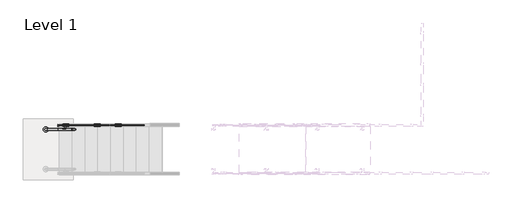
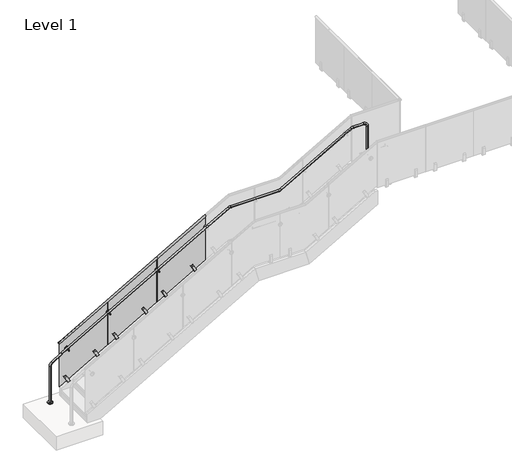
# One storey, part 3 of 17: 1 railing.
"""IFC4 building model written with IfcOpenShell, lengths in millimetres."""

from ifc_helpers import new_model, si_unit, point, frame, frame_2d, origin, origin_with_axes, place, context, project, spatial, polyline, circle_curve, ellipse_curve, trimmed, segment, composite_curve, outline, extrude, element, save
from ifc_brep_helpers import plane_surface, cylinder_surface, revolved_surface, advanced_brep

model = new_model("IFC4")

# Units and contexts
model_context = context("Model", 3, world=origin())
ifc_project = project(units=[si_unit("LENGTHUNIT", "METRE", prefix="MILLI")], contexts=[model_context])

# Site, building, storey
site = spatial("IfcSite", under=ifc_project)
building = spatial("IfcBuilding", under=site)
storey = spatial("IfcBuildingStorey", under=building, Name="Level 1", Elevation=0.0)

# Railing
placement = place(None, origin())
element("IfcRailing", 1, ObjectType="VIVA-VISIO-Glass-Steel Surface Mount-Stair_Lower", at=placement, inside=storey, context=model_context, shape_type="SolidModel", body=[
    extrude(outline(composite_curve([segment(trimmed(circle_curve(frame_2d((30754.4362561, -21174.9617549)), 50.8), [point((30754.4362561, -21225.7617549))], [point((30754.4362561, -21124.1617549))], False, "CARTESIAN"), True, "CONTINUOUS"), segment(trimmed(circle_curve(frame_2d((30754.4362561, -21174.9617549)), 50.8), [point((30754.4362561, -21124.1617549))], [point((30754.4362561, -21225.7617549))], False, "CARTESIAN"), True, "CONTINUOUS")], self_intersect=False)), frame((0.0, 0.0, 3048.0), z_axis=(0.0, 0.0, 1.0), x_axis=(1.0, 0.0, 0.0)), (0.0, 0.0, 1.0), 19.05),
    extrude(outline(composite_curve([segment(trimmed(circle_curve(frame_2d((24036.1362561, -21174.9617549)), 50.8), [point((24036.1362561, -21124.1617549))], [point((24036.1362561, -21225.7617549))], False, "CARTESIAN"), True, "CONTINUOUS"), segment(trimmed(circle_curve(frame_2d((24036.1362561, -21174.9617549)), 50.8), [point((24036.1362561, -21225.7617549))], [point((24036.1362561, -21124.1617549))], False, "CARTESIAN"), True, "CONTINUOUS")], self_intersect=False)), origin_with_axes(), (0.0, 0.0, 1.0), 19.05),
    advanced_brep(
    [(24036.1362561, -21194.0117549, 19.05), (24036.1362561, -21155.9117549, 19.05), (24036.1362561, -21194.0117549, 815.8777111), (24036.1362561, -21155.9117549, 815.8777111), (24072.8957549, -21155.9117549, 884.5634629), (24072.8957549, -21194.0117549, 884.5634629), (24278.7417076, -21194.0117549, 1021.794098), (24278.7417076, -21155.9117549, 1021.794098), (24283.5759394, -21155.9117549, 1024.7818176), (24283.5759394, -21194.0117549, 1024.7818176), (27379.3377028, -21194.0117549, 2793.7885396), (27379.3377028, -21155.9117549, 2793.7885396), (27813.1113335, -21194.0117549, 3041.6591857), (27813.1113335, -21155.9117549, 3041.6591857), (27854.0676029, -21155.9117549, 3052.5357143), (27854.0676029, -21194.0117549, 3052.5357143), (28866.9049093, -21194.0117549, 3052.5357143), (28866.9049093, -21155.9117549, 3052.5357143), (28926.7640722, -21155.9117549, 3068.4321792), (28926.7640722, -21194.0117549, 3068.4321792), (30403.9113335, -21194.0117549, 3912.5163285), (30403.9113335, -21155.9117549, 3912.5163285), (30444.8676029, -21155.9117549, 3923.3928571), (30444.8676029, -21194.0117549, 3923.3928571), (30671.8862561, -21194.0117549, 3923.3928571), (30671.8862561, -21155.9117549, 3923.3928571), (30754.4362561, -21155.9117549, 3840.8428571), (30754.4362561, -21194.0117549, 3840.8428571), (30754.4362561, -21194.0117549, 3067.05), (30754.4362561, -21155.9117549, 3067.05)],
    [
        (0, 1, circle_curve(frame((24036.1362561, -21174.9617549, 19.05), z_axis=(0.0, 0.0, -1.0), x_axis=(0.0, 1.0, 0.0)), 19.05)),
        (1, 0, circle_curve(frame((24036.1362561, -21174.9617549, 19.05), z_axis=(0.0, 0.0, -1.0), x_axis=(0.0, 1.0, 0.0)), 19.05)),
        (0, 2),
        (2, 3, circle_curve(frame((24036.1362561, -21174.9617549, 815.8777111), z_axis=(0.0, 0.0, -1.0), x_axis=(0.0, 1.0, 0.0)), 19.05)),
        (3, 1),
        (3, 2, circle_curve(frame((24036.1362561, -21174.9617549, 815.8777111), z_axis=(0.0, 0.0, -1.0), x_axis=(0.0, 1.0, 0.0)), 19.05)),
        (4, 3, circle_curve(frame((24118.6862561, -21155.9117549, 815.8777111), z_axis=(0.0, -1.0, 0.0), x_axis=(-0.9999999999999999, 0.0, 0.0)), 82.55)),
        (2, 5, circle_curve(frame((24118.6862561, -21194.0117549, 815.8777111), z_axis=(0.0, 1.0, 0.0), x_axis=(-0.9999999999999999, 0.0, 0.0)), 82.55)),
        (5, 4, circle_curve(frame((24072.8957549, -21174.9617549, 884.5634629), z_axis=(-0.8320502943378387, 0.0, -0.5547001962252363), x_axis=(0.0, 0.9999999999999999, 0.0)), 19.05)),
        (4, 5, circle_curve(frame((24072.8957549, -21174.9617549, 884.5634629), z_axis=(-0.8320502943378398, 0.0, -0.5547001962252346), x_axis=(0.0, 0.9999999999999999, 0.0)), 19.05)),
        (5, 6),
        (6, 7, circle_curve(frame((24278.7417076, -21174.9617549, 1021.794098), z_axis=(-0.8320502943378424, 0.0, -0.554700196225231), x_axis=(0.0, 1.0, 0.0)), 19.05)),
        (7, 4),
        (7, 6, circle_curve(frame((24278.7417076, -21174.9617549, 1021.794098), z_axis=(-0.8320502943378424, 0.0, -0.554700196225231), x_axis=(0.0, 1.0, 0.0)), 19.05)),
        (8, 9, circle_curve(frame((24283.5759394, -21174.9617549, 1024.7818176), z_axis=(0.8682431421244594, 0.0, 0.4961389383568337), x_axis=(0.0, 1.0, 0.0)), 19.05)),
        (9, 10),
        (10, 11, circle_curve(frame((27379.3377028, -21174.9617549, 2793.7885396), z_axis=(-0.8682431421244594, 0.0, -0.4961389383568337), x_axis=(0.0, 1.0, 0.0)), 19.05)),
        (11, 8),
        (9, 8, circle_curve(frame((24283.5759394, -21174.9617549, 1024.7818176), z_axis=(0.8682431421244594, 0.0, 0.4961389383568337), x_axis=(0.0, 1.0, 0.0)), 19.05)),
        (11, 10, circle_curve(frame((27379.3377028, -21174.9617549, 2793.7885396), z_axis=(-0.8682431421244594, 0.0, -0.4961389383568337), x_axis=(0.0, 1.0, 0.0)), 19.05)),
        (8, 7, circle_curve(frame((24324.5322088, -21155.9117549, 953.1083462), z_axis=(0.0, -1.0, 0.0), x_axis=(-0.5547001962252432, 0.0, 0.8320502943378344)), 82.55)),
        (6, 9, circle_curve(frame((24324.5322088, -21194.0117549, 953.1083462), z_axis=(0.0, 1.0, 0.0), x_axis=(-0.5547001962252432, 0.0, 0.8320502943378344)), 82.55)),
        (10, 12),
        (12, 13, circle_curve(frame((27813.1113335, -21174.9617549, 3041.6591857), z_axis=(-0.8682431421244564, 0.0, -0.4961389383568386), x_axis=(0.0, 1.0, 0.0)), 19.05)),
        (13, 11),
        (13, 12, circle_curve(frame((27813.1113335, -21174.9617549, 3041.6591857), z_axis=(-0.8682431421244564, 0.0, -0.4961389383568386), x_axis=(0.0, 1.0, 0.0)), 19.05)),
        (14, 13, circle_curve(frame((27854.0676029, -21155.9117549, 2969.9857143), z_axis=(0.0, -1.0, 0.0), x_axis=(-0.49613893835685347, 0.0, 0.8682431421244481)), 82.55)),
        (12, 15, circle_curve(frame((27854.0676029, -21194.0117549, 2969.9857143), z_axis=(0.0, 1.0, 0.0), x_axis=(-0.49613893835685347, 0.0, 0.8682431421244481)), 82.55)),
        (15, 14, circle_curve(frame((27854.0676029, -21174.9617549, 3052.5357143), z_axis=(-1.0000000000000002, 0.0, 0.0), x_axis=(0.0, 1.0, 0.0)), 19.05)),
        (14, 15, circle_curve(frame((27854.0676029, -21174.9617549, 3052.5357143), z_axis=(-1.0000000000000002, 0.0, 0.0), x_axis=(0.0, 1.0, 0.0)), 19.05)),
        (15, 16),
        (16, 17, circle_curve(frame((28866.9049093, -21174.9617549, 3052.5357143), z_axis=(-1.0, 0.0, 0.0), x_axis=(0.0, 1.0, 0.0)), 19.05)),
        (17, 14),
        (17, 16, circle_curve(frame((28866.9049093, -21174.9617549, 3052.5357143), z_axis=(-1.0, 0.0, 0.0), x_axis=(0.0, 1.0, 0.0)), 19.05)),
        (18, 17, circle_curve(frame((28866.9049093, -21155.9117549, 3173.1857143), z_axis=(0.0, 1.0, 0.0), x_axis=(0.0, 0.0, -0.9999999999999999)), 120.65)),
        (16, 19, circle_curve(frame((28866.9049093, -21194.0117549, 3173.1857143), z_axis=(0.0, -1.0, 0.0), x_axis=(0.0, 0.0, -0.9999999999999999)), 120.65)),
        (19, 18, circle_curve(frame((28926.7640722, -21174.9617549, 3068.4321792), z_axis=(-0.8682431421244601, 0.0, -0.49613893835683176), x_axis=(0.0, 0.9999999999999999, 0.0)), 19.05)),
        (18, 19, circle_curve(frame((28926.7640722, -21174.9617549, 3068.4321792), z_axis=(-0.8682431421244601, 0.0, -0.49613893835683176), x_axis=(0.0, 0.9999999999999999, 0.0)), 19.05)),
        (19, 20),
        (20, 21, circle_curve(frame((30403.9113335, -21174.9617549, 3912.5163285), z_axis=(-0.8682431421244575, 0.0, -0.49613893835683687), x_axis=(0.0, 1.0, 0.0)), 19.05)),
        (21, 18),
        (21, 20, circle_curve(frame((30403.9113335, -21174.9617549, 3912.5163285), z_axis=(-0.8682431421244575, 0.0, -0.49613893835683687), x_axis=(0.0, 1.0, 0.0)), 19.05)),
        (22, 21, circle_curve(frame((30444.8676029, -21155.9117549, 3840.8428571), z_axis=(0.0, -1.0, 0.0), x_axis=(-0.4961389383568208, 0.0, 0.8682431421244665)), 82.55)),
        (20, 23, circle_curve(frame((30444.8676029, -21194.0117549, 3840.8428571), z_axis=(0.0, 1.0, 0.0), x_axis=(-0.4961389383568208, 0.0, 0.8682431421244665)), 82.55)),
        (23, 22, circle_curve(frame((30444.8676029, -21174.9617549, 3923.3928571), z_axis=(-0.9999999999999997, 0.0, 0.0), x_axis=(0.0, 0.9999999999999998, 0.0)), 19.05)),
        (22, 23, circle_curve(frame((30444.8676029, -21174.9617549, 3923.3928571), z_axis=(-0.9999999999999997, 0.0, 0.0), x_axis=(0.0, 0.9999999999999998, 0.0)), 19.05)),
        (23, 24),
        (24, 25, circle_curve(frame((30671.8862561, -21174.9617549, 3923.3928571), z_axis=(-1.0, 0.0, 0.0), x_axis=(0.0, 1.0, 0.0)), 19.05)),
        (25, 22),
        (25, 24, circle_curve(frame((30671.8862561, -21174.9617549, 3923.3928571), z_axis=(-1.0, 0.0, 0.0), x_axis=(0.0, 1.0, 0.0)), 19.05)),
        (26, 25, circle_curve(frame((30671.8862561, -21155.9117549, 3840.8428571), z_axis=(0.0, -1.0, 0.0), x_axis=(0.0, 0.0, 1.0)), 82.55)),
        (24, 27, circle_curve(frame((30671.8862561, -21194.0117549, 3840.8428571), z_axis=(0.0, 1.0, 0.0), x_axis=(0.0, 0.0, 1.0)), 82.55)),
        (27, 26, circle_curve(frame((30754.4362561, -21174.9617549, 3840.8428571), z_axis=(0.0, 0.0, 1.0), x_axis=(0.0, 1.0, 0.0)), 19.05)),
        (26, 27, circle_curve(frame((30754.4362561, -21174.9617549, 3840.8428571), z_axis=(0.0, 0.0, 1.0), x_axis=(0.0, 1.0, 0.0)), 19.05)),
        (28, 29, circle_curve(frame((30754.4362561, -21174.9617549, 3067.05), z_axis=(0.0, 0.0, -1.0), x_axis=(0.0, 1.0, 0.0)), 19.05)),
        (29, 28, circle_curve(frame((30754.4362561, -21174.9617549, 3067.05), z_axis=(0.0, 0.0, -1.0), x_axis=(0.0, 1.0, 0.0)), 19.05)),
        (27, 28),
        (29, 26),
    ],
    [
        plane_surface(frame((24017.0862561, -21213.0617549, 19.05), z_axis=(0.0, 0.0, -1.0), x_axis=(1.0, 0.0, 0.0))),
        cylinder_surface(frame((24036.1362561, -21174.9617549, 19.05), z_axis=(0.0, 0.0, -1.0), x_axis=(0.0, 1.0, 0.0)), 19.05),
        revolved_surface(trimmed(ellipse_curve(frame((24036.1362561, -21174.9617549, 815.8777111), z_axis=(0.0, 0.0, -0.9999999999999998), x_axis=(0.0, 0.9999999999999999, 0.0)), 19.05, 19.05), [point((24036.1362561, -21194.0117549, 815.8777111))], [point((24036.1362561, -21155.9117549, 815.8777111))], True, "CARTESIAN"), (24118.6862561, -21174.9617549, 815.8777111), (0.0, 0.9999999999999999, 0.0)),
        revolved_surface(trimmed(ellipse_curve(frame((24036.1362561, -21174.9617549, 815.8777111), z_axis=(0.0, 0.0, -0.9999999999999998), x_axis=(0.0, 0.9999999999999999, 0.0)), 19.05, 19.05), [point((24036.1362561, -21155.9117549, 815.8777111))], [point((24036.1362561, -21194.0117549, 815.8777111))], True, "CARTESIAN"), (24118.6862561, -21174.9617549, 815.8777111), (0.0, 0.9999999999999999, 0.0)),
        cylinder_surface(frame((24072.8957549, -21174.9617549, 884.5634629), z_axis=(-0.8320502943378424, 0.0, -0.554700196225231), x_axis=(0.0, 1.0, 0.0)), 19.05),
        cylinder_surface(frame((24283.5759394, -21174.9617549, 1024.7818176), z_axis=(-0.8682431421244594, 0.0, -0.4961389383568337), x_axis=(0.0, 1.0, 0.0)), 19.05),
        revolved_surface(trimmed(ellipse_curve(frame((24278.7417076, -21174.9617549, 1021.794098), z_axis=(-0.8320502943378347, 0.0, -0.5547001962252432), x_axis=(0.0, 1.0000000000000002, 0.0)), 19.05, 19.05), [point((24278.7417076, -21194.0117549, 1021.794098))], [point((24278.7417076, -21155.9117549, 1021.794098))], True, "CARTESIAN"), (24324.5322088, -21174.9617549, 953.1083462), (0.0, 1.0000000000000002, 0.0)),
        revolved_surface(trimmed(ellipse_curve(frame((24278.7417076, -21174.9617549, 1021.794098), z_axis=(-0.8320502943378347, 0.0, -0.5547001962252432), x_axis=(0.0, 1.0000000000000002, 0.0)), 19.05, 19.05), [point((24278.7417076, -21155.9117549, 1021.794098))], [point((24278.7417076, -21194.0117549, 1021.794098))], True, "CARTESIAN"), (24324.5322088, -21174.9617549, 953.1083462), (0.0, 1.0000000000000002, 0.0)),
        cylinder_surface(frame((27379.3377028, -21174.9617549, 2793.7885396), z_axis=(-0.8682431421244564, 0.0, -0.4961389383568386), x_axis=(0.0, 1.0, 0.0)), 19.05),
        revolved_surface(trimmed(ellipse_curve(frame((27813.1113335, -21174.9617549, 3041.6591857), z_axis=(-0.8682431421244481, 0.0, -0.49613893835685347), x_axis=(0.0, 1.0, 0.0)), 19.05, 19.05), [point((27813.1113335, -21194.0117549, 3041.6591857))], [point((27813.1113335, -21155.9117549, 3041.6591857))], True, "CARTESIAN"), (27854.0676029, -21174.9617549, 2969.9857143), (0.0, 1.0, 0.0)),
        revolved_surface(trimmed(ellipse_curve(frame((27813.1113335, -21174.9617549, 3041.6591857), z_axis=(-0.8682431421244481, 0.0, -0.49613893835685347), x_axis=(0.0, 1.0, 0.0)), 19.05, 19.05), [point((27813.1113335, -21155.9117549, 3041.6591857))], [point((27813.1113335, -21194.0117549, 3041.6591857))], True, "CARTESIAN"), (27854.0676029, -21174.9617549, 2969.9857143), (0.0, 1.0, 0.0)),
        cylinder_surface(frame((27854.0676029, -21174.9617549, 3052.5357143), z_axis=(-1.0, 0.0, 0.0), x_axis=(0.0, 1.0, 0.0)), 19.05),
        revolved_surface(trimmed(ellipse_curve(frame((28866.9049093, -21174.9617549, 3052.5357143), z_axis=(-0.9999999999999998, 0.0, 0.0), x_axis=(0.0, 0.9999999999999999, 0.0)), 19.05, 19.05), [point((28866.9049093, -21194.0117549, 3052.5357143))], [point((28866.9049093, -21155.9117549, 3052.5357143))], True, "CARTESIAN"), (28866.9049093, -21174.9617549, 3173.1857143), (0.0, -0.9999999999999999, 0.0)),
        revolved_surface(trimmed(ellipse_curve(frame((28866.9049093, -21174.9617549, 3052.5357143), z_axis=(-0.9999999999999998, 0.0, 0.0), x_axis=(0.0, 0.9999999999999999, 0.0)), 19.05, 19.05), [point((28866.9049093, -21155.9117549, 3052.5357143))], [point((28866.9049093, -21194.0117549, 3052.5357143))], True, "CARTESIAN"), (28866.9049093, -21174.9617549, 3173.1857143), (0.0, -0.9999999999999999, 0.0)),
        cylinder_surface(frame((28926.7640722, -21174.9617549, 3068.4321792), z_axis=(-0.8682431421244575, 0.0, -0.49613893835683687), x_axis=(0.0, 1.0, 0.0)), 19.05),
        revolved_surface(trimmed(ellipse_curve(frame((30403.9113335, -21174.9617549, 3912.5163285), z_axis=(-0.8682431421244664, 0.0, -0.49613893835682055), x_axis=(0.0, 0.9999999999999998, 0.0)), 19.05, 19.05), [point((30403.9113335, -21194.0117549, 3912.5163285))], [point((30403.9113335, -21155.9117549, 3912.5163285))], True, "CARTESIAN"), (30444.8676029, -21174.9617549, 3840.8428571), (0.0, 0.9999999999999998, 0.0)),
        revolved_surface(trimmed(ellipse_curve(frame((30403.9113335, -21174.9617549, 3912.5163285), z_axis=(-0.8682431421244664, 0.0, -0.49613893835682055), x_axis=(0.0, 0.9999999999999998, 0.0)), 19.05, 19.05), [point((30403.9113335, -21155.9117549, 3912.5163285))], [point((30403.9113335, -21194.0117549, 3912.5163285))], True, "CARTESIAN"), (30444.8676029, -21174.9617549, 3840.8428571), (0.0, 0.9999999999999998, 0.0)),
        cylinder_surface(frame((30444.8676029, -21174.9617549, 3923.3928571), z_axis=(-1.0, 0.0, 0.0), x_axis=(0.0, 1.0, 0.0)), 19.05),
        revolved_surface(trimmed(ellipse_curve(frame((30671.8862561, -21174.9617549, 3923.3928571), z_axis=(-1.0, 0.0, 0.0), x_axis=(0.0, 1.0, 0.0)), 19.05, 19.05), [point((30671.8862561, -21194.0117549, 3923.3928571))], [point((30671.8862561, -21155.9117549, 3923.3928571))], True, "CARTESIAN"), (30671.8862561, -21174.9617549, 3840.8428571), (0.0, 1.0, 0.0)),
        revolved_surface(trimmed(ellipse_curve(frame((30671.8862561, -21174.9617549, 3923.3928571), z_axis=(-1.0, 0.0, 0.0), x_axis=(0.0, 1.0, 0.0)), 19.05, 19.05), [point((30671.8862561, -21155.9117549, 3923.3928571))], [point((30671.8862561, -21194.0117549, 3923.3928571))], True, "CARTESIAN"), (30671.8862561, -21174.9617549, 3840.8428571), (0.0, 1.0, 0.0)),
        plane_surface(frame((30773.4862561, -21213.0617549, 3067.05), z_axis=(0.0, 0.0, -1.0), x_axis=(-1.0, 0.0, 0.0))),
        cylinder_surface(frame((30754.4362561, -21174.9617549, 3840.8428571), z_axis=(0.0, 0.0, 1.0), x_axis=(0.0, 1.0, 0.0)), 19.05),
    ],
    [
        (0, [[1, 2]]),
        (1, [[-1, 3, 4, 5]]),
        (1, [[-2, -5, 6, -3]]),
        (2, [[7, -4, 8, 9]]),
        (3, [[-8, -6, -7, 10]]),
        (4, [[-9, 11, 12, 13]]),
        (4, [[-10, -13, 14, -11]]),
        (5, [[15, 16, 17, 18]]),
        (5, [[19, -18, 20, -16]]),
        (6, [[21, -12, 22, -15]]),
        (7, [[-22, -14, -21, -19]]),
        (8, [[-17, 23, 24, 25]]),
        (8, [[-20, -25, 26, -23]]),
        (9, [[27, -24, 28, 29]]),
        (10, [[-28, -26, -27, 30]]),
        (11, [[-29, 31, 32, 33]]),
        (11, [[-30, -33, 34, -31]]),
        (12, [[35, -32, 36, 37]]),
        (13, [[-36, -34, -35, 38]]),
        (14, [[-37, 39, 40, 41]]),
        (14, [[-38, -41, 42, -39]]),
        (15, [[43, -40, 44, 45]]),
        (16, [[-44, -42, -43, 46]]),
        (17, [[-45, 47, 48, 49]]),
        (17, [[-46, -49, 50, -47]]),
        (18, [[51, -48, 52, 53]]),
        (19, [[-52, -50, -51, 54]]),
        (20, [[55, 56]]),
        (21, [[-53, 57, -56, 58]]),
        (21, [[-54, -58, -55, -57]]),
    ],
),
    advanced_brep(
    [(24271.0862561, -21103.8417549, 1183.9128615), (24271.0862561, -21080.9070565, 1183.9777177), (24271.0862561, -21086.0617549, 1186.9279838), (24271.0862561, -21086.0617549, 1215.1002082), (24271.0862561, -21098.7617549, 1215.1002082), (24271.0862561, -21098.7617549, 1186.8383094), (27369.8862561, -21103.8417549, 2954.6557187), (27369.8862561, -21098.7617549, 2957.5811665), (27369.8862561, -21098.7617549, 2985.8430653), (27369.8862561, -21086.0617549, 2985.8430653), (27369.8862561, -21086.0617549, 2957.670841), (27369.8862561, -21080.9070565, 2954.7205748)],
    [
        (0, 1, ellipse_curve(frame((24271.0862561, -21092.4117549, 1201.4655484), z_axis=(-1.0, 0.0, 0.0), x_axis=(0.0, 0.0, -0.9999999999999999)), 21.9408586, 19.05)),
        (1, 2, ellipse_curve(frame((24271.0862561, -21082.8479446, 1186.9279838), z_axis=(-1.0, 0.0, 0.0), x_axis=(0.0, 0.0, -0.9999999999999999)), 3.7015096, 3.2138103)),
        (2, 3),
        (3, 4),
        (4, 5),
        (5, 0, ellipse_curve(frame((24271.0862561, -21101.9367549, 1186.8383094), z_axis=(-1.0, 0.0, 0.0), x_axis=(0.0, 0.0, -0.9999999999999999)), 3.6568098, 3.175)),
        (6, 7, ellipse_curve(frame((27369.8862561, -21101.9367549, 2957.5811665), z_axis=(1.0, 0.0, 0.0), x_axis=(0.0, 0.0, -0.9999999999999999)), 3.6568098, 3.175)),
        (7, 8),
        (8, 9),
        (9, 10),
        (10, 11, ellipse_curve(frame((27369.8862561, -21082.8479446, 2957.670841), z_axis=(1.0, 0.0, 0.0), x_axis=(0.0, 0.0, -0.9999999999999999)), 3.7015096, 3.2138103)),
        (11, 6, ellipse_curve(frame((27369.8862561, -21092.4117549, 2972.2084056), z_axis=(1.0, 0.0, 0.0), x_axis=(0.0, 0.0, -0.9999999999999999)), 21.9408586, 19.05)),
        (0, 6),
        (11, 1),
        (10, 2),
        (9, 3),
        (8, 4),
        (7, 5),
    ],
    [
        plane_surface(frame((24271.0862561, -21092.4117549, 1217.3857143), z_axis=(-1.0, 0.0, 0.0), x_axis=(0.0, 1.0, 0.0))),
        plane_surface(frame((27369.8862561, -21092.4117549, 2988.1285714), z_axis=(1.0, 0.0, 0.0), x_axis=(0.0, 1.0, 0.0))),
        cylinder_surface(frame((24277.9441737, -21092.4117549, 1205.3843585), z_axis=(-0.8682431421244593, 0.0, -0.4961389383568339), x_axis=(0.0, 1.0, 0.0)), 19.05),
        cylinder_surface(frame((24284.2065092, -21082.8479446, 1194.4252713), z_axis=(-0.8682431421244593, 0.0, -0.4961389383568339), x_axis=(0.0, 1.0, 0.0)), 3.2138103),
        plane_surface(frame((24271.0862561, -21086.0617549, 1186.9279838), z_axis=(0.0, -1.0000000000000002, 0.0), x_axis=(0.8682431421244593, 0.0, 0.49613893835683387))),
        plane_surface(frame((24271.0862561, -21086.0617549, 1215.1002082), z_axis=(0.49613893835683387, 0.0, -0.8682431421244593), x_axis=(0.8682431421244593, 0.0, 0.49613893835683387))),
        plane_surface(frame((24271.0862561, -21098.7617549, 1215.1002082), z_axis=(0.0, 1.0000000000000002, 0.0), x_axis=(0.8682431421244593, 0.0, 0.49613893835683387))),
        cylinder_surface(frame((24284.2451382, -21101.9367549, 1194.3576706), z_axis=(-0.8682431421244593, 0.0, -0.4961389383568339), x_axis=(0.0, 1.0, 0.0)), 3.175),
    ],
    [
        (0, [[1, 2, 3, 4, 5, 6]]),
        (1, [[7, 8, 9, 10, 11, 12]]),
        (2, [[-1, 13, -12, 14]]),
        (3, [[-2, -14, -11, 15]]),
        (4, [[-3, -15, -10, 16]]),
        (5, [[-4, -16, -9, 17]]),
        (6, [[-5, -17, -8, 18]]),
        (7, [[-6, -18, -7, -13]]),
    ],
),
    extrude(outline(polyline([(0.0, -12.7), (0.0, 0.0), (50.8, 0.0), (50.8, -12.7), (0.0, -12.7)])), frame((27141.2462136, -21086.0617549, 1799.7415149), z_axis=(-0.49613893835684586, 0.0, 0.8682431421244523), x_axis=(0.8682431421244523, 0.0, 0.49613893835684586)), (0.0, 0.0, 1.0), 50.8),
    extrude(outline(polyline([(0.0, 0.0), (139.7, 0.0), (166.6875, -11.1125), (166.6875, -19.05), (0.0, -19.05), (0.0, 0.0)])), frame((27134.1576285, -21117.8117549, 1812.1465388), z_axis=(0.8682431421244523, 0.0, 0.49613893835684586), x_axis=(-0.49613893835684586, 0.0, 0.8682431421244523)), (0.0, 0.0, 1.0), 50.8),
    extrude(outline(polyline([(0.0, -50.8), (0.0, -31.75), (166.6875, -31.75), (166.6875, -39.6875), (139.7, -50.8), (0.0, -50.8)])), frame((27134.1576285, -21117.8117549, 1812.1465388), z_axis=(0.8682431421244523, 0.0, 0.49613893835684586), x_axis=(-0.49613893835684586, 0.0, 0.8682431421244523)), (0.0, 0.0, 1.0), 50.8),
    extrude(outline(polyline([(2981.5065494, 27361.802636), (2400.9351209, 26345.802636), (1408.483444, 26345.802636), (1989.0548725, 27361.802636), (2981.5065494, 27361.802636)])), frame((0.0, -21098.7617549, 0.0), z_axis=(0.0, 1.0, 0.0), x_axis=(0.0, 0.0, 1.0)), (0.0, 0.0, 1.0), 12.7),
    extrude(outline(polyline([(0.0, -12.7), (0.0, 0.0), (50.8, 0.0), (50.8, -12.7), (0.0, -12.7)])), frame((26521.4862136, -21086.0617549, 1445.5929435), z_axis=(-0.49613893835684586, 0.0, 0.8682431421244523), x_axis=(0.8682431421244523, 0.0, 0.49613893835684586)), (0.0, 0.0, 1.0), 50.8),
    extrude(outline(polyline([(0.0, 0.0), (139.7, 0.0), (166.6875, -11.1125), (166.6875, -19.05), (0.0, -19.05), (0.0, 0.0)])), frame((26514.3976285, -21117.8117549, 1457.9979674), z_axis=(0.8682431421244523, 0.0, 0.49613893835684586), x_axis=(-0.49613893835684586, 0.0, 0.8682431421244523)), (0.0, 0.0, 1.0), 50.8),
    extrude(outline(polyline([(0.0, -50.8), (0.0, -31.75), (166.6875, -31.75), (166.6875, -39.6875), (139.7, -50.8), (0.0, -50.8)])), frame((26514.3976285, -21117.8117549, 1457.9979674), z_axis=(0.8682431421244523, 0.0, 0.49613893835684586), x_axis=(-0.49613893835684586, 0.0, 0.8682431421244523)), (0.0, 0.0, 1.0), 50.8),
    extrude(outline(composite_curve([segment(trimmed(circle_curve(frame_2d((0.0, 7.0)), 7.0), [point((0.0, 14.0))], [point((0.0, 0.0))], False, "CARTESIAN"), True, "CONTINUOUS"), segment(trimmed(circle_curve(frame_2d((0.0, 7.0)), 7.0), [point((0.0, 0.0))], [point((0.0, 14.0))], False, "CARTESIAN"), True, "CONTINUOUS")], self_intersect=False)), frame((26349.7491159, -21167.6316158, 2118.4424369), z_axis=(-0.5018548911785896, 0.0, 0.8649518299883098), x_axis=(-0.8649518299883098, 0.0, -0.5018548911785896)), (0.0, 0.0, 1.0), 52.8378352),
    extrude(outline(composite_curve([segment(polyline([(5.2466064, -13.9247915), (4.2292194, -14.9511811)]), True, "CONTINUOUS"), segment(trimmed(circle_curve(frame_2d((3.1638975, -13.8952033)), 1.5), [point((4.2292194, -14.9511811))], [point((2.0329757, -14.8806047))], False, "CARTESIAN"), True, "CONTINUOUS"), segment(trimmed(circle_curve(frame_2d((18.6575252, -0.3952033)), 22.05), [point((2.0329757, -14.8806047))], [point((2.0329757, 14.0901982))], False, "CARTESIAN"), True, "CONTINUOUS"), segment(trimmed(circle_curve(frame_2d((3.1638975, 13.1047967)), 1.5), [point((2.0329757, 14.0901982))], [point((4.2292194, 14.1607746))], False, "CARTESIAN"), True, "CONTINUOUS"), segment(polyline([(4.2292194, 14.1607746), (5.2466064, 13.134385)]), True, "CONTINUOUS"), segment(trimmed(circle_curve(frame_2d((18.6575252, -0.3952033)), 19.05), [point((5.2466064, 13.134385))], [point((5.2466064, -13.9247915))], True, "CARTESIAN"), True, "CONTINUOUS")], self_intersect=False)), frame((26285.2813338, -21176.3588481, 2146.1836197), z_axis=(0.8664916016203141, 0.0, 0.49919165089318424), x_axis=(-0.49919165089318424, 0.0, 0.8664916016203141)), (0.0, 0.0, 1.0), 74.5229187),
    extrude(outline(composite_curve([segment(trimmed(circle_curve(frame_2d((2140.5789524, 26336.9529227)), 11.0132813), [point((2140.5789524, 26347.966204))], [point((2140.5789524, 26325.9396415))], False, "CARTESIAN"), True, "CONTINUOUS"), segment(trimmed(circle_curve(frame_2d((2140.5789524, 26336.9529227)), 11.0132813), [point((2140.5789524, 26325.9396415))], [point((2140.5789524, 26347.966204))], False, "CARTESIAN"), True, "CONTINUOUS")], self_intersect=False)), frame((0.0, -21187.6617549, 0.0), z_axis=(0.0, 1.0, 0.0), x_axis=(0.0, 0.0, 1.0)), (0.0, 0.0, 1.0), 79.2757812),
    advanced_brep(
    [(26336.9529227, -21076.4375361, 2140.5789524), (26336.9529227, -21076.4375361, 2104.4633274), (26336.9529227, -21076.4375361, 2176.6945774), (26336.9529227, -21108.3859736, 2104.4633274), (26336.9529227, -21108.3859736, 2140.5789524), (26336.9529227, -21108.3859736, 2176.6945774), (26336.9529227, -21106.4015986, 2102.4789524), (26336.9529227, -21106.4015986, 2178.6789524), (26336.9529227, -21098.7617549, 2102.4789524), (26336.9529227, -21098.7617549, 2178.6789524), (26336.9529227, -21098.7617549, 2127.8789524), (26336.9529227, -21098.7617549, 2153.2789524), (26336.9529227, -21086.0617549, 2127.8789524), (26336.9529227, -21086.0617549, 2153.2789524), (26336.9529227, -21086.0617549, 2102.4789524), (26336.9529227, -21086.0617549, 2178.6789524), (26336.9529227, -21078.4219111, 2102.4789524), (26336.9529227, -21078.4219111, 2178.6789524)],
    [
        (0, 1),
        (1, 2, circle_curve(frame((26336.9529227, -21076.4375361, 2140.5789524), z_axis=(0.0, 1.0, 0.0), x_axis=(0.0, 0.0, 1.0)), 36.115625)),
        (2, 0),
        (2, 1, circle_curve(frame((26336.9529227, -21076.4375361, 2140.5789524), z_axis=(0.0, 1.0, 0.0), x_axis=(0.0, 0.0, 1.0)), 36.115625)),
        (3, 4),
        (4, 5),
        (5, 3, circle_curve(frame((26336.9529227, -21108.3859736, 2140.5789524), z_axis=(0.0, -1.0, 0.0), x_axis=(0.0, 0.0, 1.0)), 36.115625)),
        (3, 5, circle_curve(frame((26336.9529227, -21108.3859736, 2140.5789524), z_axis=(0.0, -1.0, 0.0), x_axis=(0.0, 0.0, 1.0)), 36.115625)),
        (6, 3),
        (5, 7),
        (7, 6, circle_curve(frame((26336.9529227, -21106.4015986, 2140.5789524), z_axis=(0.0, -1.0, 0.0), x_axis=(0.0, 0.0, 1.0)), 38.1)),
        (6, 7, circle_curve(frame((26336.9529227, -21106.4015986, 2140.5789524), z_axis=(0.0, -1.0, 0.0), x_axis=(0.0, 0.0, 1.0)), 38.1)),
        (8, 6),
        (7, 9),
        (9, 8, circle_curve(frame((26336.9529227, -21098.7617549, 2140.5789524), z_axis=(0.0, -1.0, 0.0), x_axis=(0.0, 0.0, 1.0)), 38.1)),
        (8, 9, circle_curve(frame((26336.9529227, -21098.7617549, 2140.5789524), z_axis=(0.0, -1.0, 0.0), x_axis=(0.0, 0.0, 1.0)), 38.1)),
        (10, 8),
        (9, 11),
        (11, 10, circle_curve(frame((26336.9529227, -21098.7617549, 2140.5789524), z_axis=(0.0, -1.0, 0.0), x_axis=(0.0, 0.0, 1.0)), 12.7)),
        (10, 11, circle_curve(frame((26336.9529227, -21098.7617549, 2140.5789524), z_axis=(0.0, -1.0, 0.0), x_axis=(0.0, 0.0, 1.0)), 12.7)),
        (12, 10),
        (11, 13),
        (13, 12, circle_curve(frame((26336.9529227, -21086.0617549, 2140.5789524), z_axis=(0.0, -1.0, 0.0), x_axis=(0.0, 0.0, 1.0)), 12.7)),
        (12, 13, circle_curve(frame((26336.9529227, -21086.0617549, 2140.5789524), z_axis=(0.0, -1.0, 0.0), x_axis=(0.0, 0.0, 1.0)), 12.7)),
        (14, 12),
        (13, 15),
        (15, 14, circle_curve(frame((26336.9529227, -21086.0617549, 2140.5789524), z_axis=(0.0, -1.0, 0.0), x_axis=(0.0, 0.0, 1.0)), 38.1)),
        (14, 15, circle_curve(frame((26336.9529227, -21086.0617549, 2140.5789524), z_axis=(0.0, -1.0, 0.0), x_axis=(0.0, 0.0, 1.0)), 38.1)),
        (16, 14),
        (15, 17),
        (17, 16, circle_curve(frame((26336.9529227, -21078.4219111, 2140.5789524), z_axis=(0.0, -1.0, 0.0), x_axis=(0.0, 0.0, 1.0)), 38.1)),
        (16, 17, circle_curve(frame((26336.9529227, -21078.4219111, 2140.5789524), z_axis=(0.0, -1.0, 0.0), x_axis=(0.0, 0.0, 1.0)), 38.1)),
        (1, 16),
        (17, 2),
    ],
    [
        plane_surface(frame((26336.9529227, -21076.4375361, 2140.5789524), z_axis=(0.0, 1.0, 0.0), x_axis=(0.0, 0.0, 1.0))),
        plane_surface(frame((26336.9529227, -21108.3859736, 2140.5789524), z_axis=(0.0, -1.0, 0.0), x_axis=(0.0, 0.0, 1.0))),
        revolved_surface(polyline([(26336.9529227, -21108.3859736, 2176.6945774), (26336.9529227, -21106.4015986, 2178.6789524)]), (26336.9529227, -21040.3219111, 2140.5789524), (0.0, 1.0, 0.0)),
        cylinder_surface(frame((26336.9529227, -21040.3219111, 2140.5789524), z_axis=(0.0, 1.0, 0.0), x_axis=(0.0, 0.0, 1.0)), 38.1),
        plane_surface(frame((26336.9529227, -21098.7617549, 2140.5789524), z_axis=(0.0, 1.0, 0.0), x_axis=(0.0, 0.0, 1.0))),
        cylinder_surface(frame((26336.9529227, -21040.3219111, 2140.5789524), z_axis=(0.0, 1.0, 0.0), x_axis=(0.0, 0.0, 1.0)), 12.7),
        plane_surface(frame((26336.9529227, -21086.0617549, 2140.5789524), z_axis=(0.0, -1.0, 0.0), x_axis=(0.0, 0.0, 1.0))),
        revolved_surface(polyline([(26336.9529227, -21078.4219111, 2178.6789524), (26336.9529227, -21076.4375361, 2176.6945774)]), (26336.9529227, -21040.3219111, 2140.5789524), (0.0, 1.0, 0.0)),
    ],
    [
        (0, [[1, 2, 3]]),
        (0, [[-3, 4, -1]]),
        (1, [[5, 6, 7]]),
        (1, [[-6, -5, 8]]),
        (2, [[9, -7, 10, 11]]),
        (2, [[-10, -8, -9, 12]]),
        (3, [[13, -11, 14, 15]]),
        (3, [[-14, -12, -13, 16]]),
        (4, [[17, -15, 18, 19]]),
        (4, [[-18, -16, -17, 20]]),
        (5, [[21, -19, 22, 23]]),
        (5, [[-22, -20, -21, 24]]),
        (6, [[25, -23, 26, 27]]),
        (6, [[-26, -24, -25, 28]]),
        (3, [[29, -27, 30, 31]]),
        (3, [[-30, -28, -29, 32]]),
        (7, [[33, -31, 34, -2]]),
        (7, [[-34, -32, -33, -4]]),
    ],
),
    extrude(outline(polyline([(0.0, -12.7), (0.0, 0.0), (50.8, 0.0), (50.8, -12.7), (0.0, -12.7)])), frame((26108.3128803, -21086.0617549, 1209.4938959), z_axis=(-0.49613893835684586, 0.0, 0.8682431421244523), x_axis=(0.8682431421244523, 0.0, 0.49613893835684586)), (0.0, 0.0, 1.0), 50.8),
    extrude(outline(polyline([(0.0, 0.0), (139.7, 0.0), (166.6875, -11.1125), (166.6875, -19.05), (0.0, -19.05), (0.0, 0.0)])), frame((26101.2242952, -21117.8117549, 1221.8989198), z_axis=(0.8682431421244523, 0.0, 0.49613893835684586), x_axis=(-0.49613893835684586, 0.0, 0.8682431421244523)), (0.0, 0.0, 1.0), 50.8),
    extrude(outline(polyline([(0.0, -50.8), (0.0, -31.75), (166.6875, -31.75), (166.6875, -39.6875), (139.7, -50.8), (0.0, -50.8)])), frame((26101.2242952, -21117.8117549, 1221.8989198), z_axis=(0.8682431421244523, 0.0, 0.49613893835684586), x_axis=(-0.49613893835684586, 0.0, 0.8682431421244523)), (0.0, 0.0, 1.0), 50.8),
    extrude(outline(polyline([(2391.2589304, 26328.8693027), (1810.6875018, 25312.8693027), (818.2358249, 25312.8693027), (1398.8072535, 26328.8693027), (2391.2589304, 26328.8693027)])), frame((0.0, -21098.7617549, 0.0), z_axis=(0.0, 1.0, 0.0), x_axis=(0.0, 0.0, 1.0)), (0.0, 0.0, 1.0), 12.7),
    extrude(outline(polyline([(0.0, -12.7), (0.0, 0.0), (50.7999999, 0.0), (50.7999999, -12.7), (0.0, -12.7)])), frame((25488.5528803, -21086.0617549, 855.3453245), z_axis=(-0.49613893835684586, 0.0, 0.8682431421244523), x_axis=(0.8682431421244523, 0.0, 0.49613893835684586)), (0.0, 0.0, 1.0), 50.8),
    extrude(outline(polyline([(0.0, 0.0), (139.7, 0.0), (166.6875, -11.1125), (166.6875, -19.05), (0.0, -19.05), (0.0, 0.0)])), frame((25481.4642952, -21117.8117549, 867.7503484), z_axis=(0.8682431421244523, 0.0, 0.49613893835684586), x_axis=(-0.49613893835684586, 0.0, 0.8682431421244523)), (0.0, 0.0, 1.0), 50.8),
    extrude(outline(polyline([(0.0, -50.8), (0.0, -31.75), (166.6875, -31.75), (166.6875, -39.6875), (139.7, -50.8), (0.0, -50.8)])), frame((25481.4642952, -21117.8117549, 867.7503484), z_axis=(0.8682431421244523, 0.0, 0.49613893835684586), x_axis=(-0.49613893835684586, 0.0, 0.8682431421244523)), (0.0, 0.0, 1.0), 50.8),
    extrude(outline(composite_curve([segment(trimmed(circle_curve(frame_2d((0.0, 7.0)), 7.0), [point((0.0, 14.0))], [point((0.0, 0.0))], False, "CARTESIAN"), True, "CONTINUOUS"), segment(trimmed(circle_curve(frame_2d((0.0, 7.0)), 7.0), [point((0.0, 0.0))], [point((0.0, 14.0))], False, "CARTESIAN"), True, "CONTINUOUS")], self_intersect=False)), frame((25316.8157825, -21167.6316158, 1528.1948178), z_axis=(-0.5018548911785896, 0.0, 0.8649518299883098), x_axis=(-0.8649518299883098, 0.0, -0.5018548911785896)), (0.0, 0.0, 1.0), 52.8378352),
    extrude(outline(composite_curve([segment(polyline([(5.2466063, -13.9247915), (4.2292193, -14.9511811)]), True, "CONTINUOUS"), segment(trimmed(circle_curve(frame_2d((3.1638974, -13.8952033)), 1.5), [point((4.2292193, -14.9511811))], [point((2.0329756, -14.8806047))], False, "CARTESIAN"), True, "CONTINUOUS"), segment(trimmed(circle_curve(frame_2d((18.6575251, -0.3952033)), 22.05), [point((2.0329756, -14.8806047))], [point((2.0329756, 14.0901982))], False, "CARTESIAN"), True, "CONTINUOUS"), segment(trimmed(circle_curve(frame_2d((3.1638974, 13.1047967)), 1.5), [point((2.0329756, 14.0901982))], [point((4.2292193, 14.1607746))], False, "CARTESIAN"), True, "CONTINUOUS"), segment(polyline([(4.2292193, 14.1607746), (5.2466063, 13.134385)]), True, "CONTINUOUS"), segment(trimmed(circle_curve(frame_2d((18.6575251, -0.3952033)), 19.05), [point((5.2466063, 13.134385))], [point((5.2466063, -13.9247915))], True, "CARTESIAN"), True, "CONTINUOUS")], self_intersect=False)), frame((25252.3480005, -21176.3588481, 1555.9360007), z_axis=(0.8664916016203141, 0.0, 0.49919165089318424), x_axis=(-0.49919165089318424, 0.0, 0.8664916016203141)), (0.0, 0.0, 1.0), 74.5229187),
    extrude(outline(composite_curve([segment(trimmed(circle_curve(frame_2d((1550.3313333, 25304.0195894)), 11.0132813), [point((1550.3313333, 25315.0328707))], [point((1550.3313333, 25293.0063082))], False, "CARTESIAN"), True, "CONTINUOUS"), segment(trimmed(circle_curve(frame_2d((1550.3313333, 25304.0195894)), 11.0132813), [point((1550.3313333, 25293.0063082))], [point((1550.3313333, 25315.0328707))], False, "CARTESIAN"), True, "CONTINUOUS")], self_intersect=False)), frame((0.0, -21187.6617549, 0.0), z_axis=(0.0, 1.0, 0.0), x_axis=(0.0, 0.0, 1.0)), (0.0, 0.0, 1.0), 79.2757812),
    advanced_brep(
    [(25304.0195894, -21076.4375361, 1550.3313333), (25304.0195894, -21076.4375361, 1514.2157083), (25304.0195894, -21076.4375361, 1586.4469583), (25304.0195894, -21108.3859736, 1514.2157083), (25304.0195894, -21108.3859736, 1550.3313333), (25304.0195894, -21108.3859736, 1586.4469583), (25304.0195894, -21106.4015986, 1512.2313333), (25304.0195894, -21106.4015986, 1588.4313333), (25304.0195894, -21098.7617549, 1512.2313333), (25304.0195894, -21098.7617549, 1588.4313333), (25304.0195894, -21098.7617549, 1537.6313333), (25304.0195894, -21098.7617549, 1563.0313333), (25304.0195894, -21086.0617549, 1537.6313333), (25304.0195894, -21086.0617549, 1563.0313333), (25304.0195894, -21086.0617549, 1512.2313333), (25304.0195894, -21086.0617549, 1588.4313333), (25304.0195894, -21078.4219111, 1512.2313333), (25304.0195894, -21078.4219111, 1588.4313333)],
    [
        (0, 1),
        (1, 2, circle_curve(frame((25304.0195894, -21076.4375361, 1550.3313333), z_axis=(0.0, 1.0, 0.0), x_axis=(0.0, 0.0, 1.0)), 36.115625)),
        (2, 0),
        (2, 1, circle_curve(frame((25304.0195894, -21076.4375361, 1550.3313333), z_axis=(0.0, 1.0, 0.0), x_axis=(0.0, 0.0, 1.0)), 36.115625)),
        (3, 4),
        (4, 5),
        (5, 3, circle_curve(frame((25304.0195894, -21108.3859736, 1550.3313333), z_axis=(0.0, -1.0, 0.0), x_axis=(0.0, 0.0, 1.0)), 36.115625)),
        (3, 5, circle_curve(frame((25304.0195894, -21108.3859736, 1550.3313333), z_axis=(0.0, -1.0, 0.0), x_axis=(0.0, 0.0, 1.0)), 36.115625)),
        (6, 3),
        (5, 7),
        (7, 6, circle_curve(frame((25304.0195894, -21106.4015986, 1550.3313333), z_axis=(0.0, -1.0, 0.0), x_axis=(0.0, 0.0, 1.0)), 38.1)),
        (6, 7, circle_curve(frame((25304.0195894, -21106.4015986, 1550.3313333), z_axis=(0.0, -1.0, 0.0), x_axis=(0.0, 0.0, 1.0)), 38.1)),
        (8, 6),
        (7, 9),
        (9, 8, circle_curve(frame((25304.0195894, -21098.7617549, 1550.3313333), z_axis=(0.0, -1.0, 0.0), x_axis=(0.0, 0.0, 1.0)), 38.1)),
        (8, 9, circle_curve(frame((25304.0195894, -21098.7617549, 1550.3313333), z_axis=(0.0, -1.0, 0.0), x_axis=(0.0, 0.0, 1.0)), 38.1)),
        (10, 8),
        (9, 11),
        (11, 10, circle_curve(frame((25304.0195894, -21098.7617549, 1550.3313333), z_axis=(0.0, -1.0, 0.0), x_axis=(0.0, 0.0, 1.0)), 12.7)),
        (10, 11, circle_curve(frame((25304.0195894, -21098.7617549, 1550.3313333), z_axis=(0.0, -1.0, 0.0), x_axis=(0.0, 0.0, 1.0)), 12.7)),
        (12, 10),
        (11, 13),
        (13, 12, circle_curve(frame((25304.0195894, -21086.0617549, 1550.3313333), z_axis=(0.0, -1.0, 0.0), x_axis=(0.0, 0.0, 1.0)), 12.7)),
        (12, 13, circle_curve(frame((25304.0195894, -21086.0617549, 1550.3313333), z_axis=(0.0, -1.0, 0.0), x_axis=(0.0, 0.0, 1.0)), 12.7)),
        (14, 12),
        (13, 15),
        (15, 14, circle_curve(frame((25304.0195894, -21086.0617549, 1550.3313333), z_axis=(0.0, -1.0, 0.0), x_axis=(0.0, 0.0, 1.0)), 38.1)),
        (14, 15, circle_curve(frame((25304.0195894, -21086.0617549, 1550.3313333), z_axis=(0.0, -1.0, 0.0), x_axis=(0.0, 0.0, 1.0)), 38.1)),
        (16, 14),
        (15, 17),
        (17, 16, circle_curve(frame((25304.0195894, -21078.4219111, 1550.3313333), z_axis=(0.0, -1.0, 0.0), x_axis=(0.0, 0.0, 1.0)), 38.1)),
        (16, 17, circle_curve(frame((25304.0195894, -21078.4219111, 1550.3313333), z_axis=(0.0, -1.0, 0.0), x_axis=(0.0, 0.0, 1.0)), 38.1)),
        (1, 16),
        (17, 2),
    ],
    [
        plane_surface(frame((25304.0195894, -21076.4375361, 1550.3313333), z_axis=(0.0, 1.0, 0.0), x_axis=(0.0, 0.0, 1.0))),
        plane_surface(frame((25304.0195894, -21108.3859736, 1550.3313333), z_axis=(0.0, -1.0, 0.0), x_axis=(0.0, 0.0, 1.0))),
        revolved_surface(polyline([(25304.0195894, -21108.3859736, 1586.4469583), (25304.0195894, -21106.4015986, 1588.4313333)]), (25304.0195894, -21040.3219111, 1550.3313333), (0.0, 1.0, 0.0)),
        cylinder_surface(frame((25304.0195894, -21040.3219111, 1550.3313333), z_axis=(0.0, 1.0, 0.0), x_axis=(0.0, 0.0, 1.0)), 38.1),
        plane_surface(frame((25304.0195894, -21098.7617549, 1550.3313333), z_axis=(0.0, 1.0, 0.0), x_axis=(0.0, 0.0, 1.0))),
        cylinder_surface(frame((25304.0195894, -21040.3219111, 1550.3313333), z_axis=(0.0, 1.0, 0.0), x_axis=(0.0, 0.0, 1.0)), 12.7),
        plane_surface(frame((25304.0195894, -21086.0617549, 1550.3313333), z_axis=(0.0, -1.0, 0.0), x_axis=(0.0, 0.0, 1.0))),
        revolved_surface(polyline([(25304.0195894, -21078.4219111, 1588.4313333), (25304.0195894, -21076.4375361, 1586.4469583)]), (25304.0195894, -21040.3219111, 1550.3313333), (0.0, 1.0, 0.0)),
    ],
    [
        (0, [[1, 2, 3]]),
        (0, [[-3, 4, -1]]),
        (1, [[5, 6, 7]]),
        (1, [[-6, -5, 8]]),
        (2, [[9, -7, 10, 11]]),
        (2, [[-10, -8, -9, 12]]),
        (3, [[13, -11, 14, 15]]),
        (3, [[-14, -12, -13, 16]]),
        (4, [[17, -15, 18, 19]]),
        (4, [[-18, -16, -17, 20]]),
        (5, [[21, -19, 22, 23]]),
        (5, [[-22, -20, -21, 24]]),
        (6, [[25, -23, 26, 27]]),
        (6, [[-26, -24, -25, 28]]),
        (3, [[29, -27, 30, 31]]),
        (3, [[-30, -28, -29, 32]]),
        (7, [[33, -31, 34, -2]]),
        (7, [[-34, -32, -33, -4]]),
    ],
),
    extrude(outline(polyline([(0.0, -12.7), (0.0, 0.0), (50.8, 0.0), (50.8, -12.7), (0.0, -12.7)])), frame((25075.3795469, -21086.0617549, 619.2462768), z_axis=(-0.49613893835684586, 0.0, 0.8682431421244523), x_axis=(0.8682431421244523, 0.0, 0.49613893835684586)), (0.0, 0.0, 1.0), 50.8),
    extrude(outline(polyline([(0.0, 0.0), (139.7, 0.0), (166.6875, -11.1125), (166.6875, -19.05), (0.0, -19.05), (0.0, 0.0)])), frame((25068.2909618, -21117.8117549, 631.6513007), z_axis=(0.8682431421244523, 0.0, 0.49613893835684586), x_axis=(-0.49613893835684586, 0.0, 0.8682431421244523)), (0.0, 0.0, 1.0), 50.8),
    extrude(outline(polyline([(0.0, -50.8), (0.0, -31.75), (166.6875, -31.75), (166.6875, -39.6875), (139.7, -50.8), (0.0, -50.8)])), frame((25068.2909618, -21117.8117549, 631.6513007), z_axis=(0.8682431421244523, 0.0, 0.49613893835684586), x_axis=(-0.49613893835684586, 0.0, 0.8682431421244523)), (0.0, 0.0, 1.0), 50.8),
    extrude(outline(polyline([(1801.0113113, 25295.9359693), (1220.4398828, 24279.9359693), (227.9882059, 24279.9359693), (808.5596344, 25295.9359693), (1801.0113113, 25295.9359693)])), frame((0.0, -21098.7617549, 0.0), z_axis=(0.0, 1.0, 0.0), x_axis=(0.0, 0.0, 1.0)), (0.0, 0.0, 1.0), 12.7),
    extrude(outline(polyline([(0.0, -12.7), (0.0, 0.0), (50.8, 0.0), (50.8, -12.7), (0.0, -12.7)])), frame((24455.6195469, -21086.0617549, 265.0977054), z_axis=(-0.49613893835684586, 0.0, 0.8682431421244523), x_axis=(0.8682431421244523, 0.0, 0.49613893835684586)), (0.0, 0.0, 1.0), 50.8),
    extrude(outline(polyline([(0.0, 0.0), (139.7, 0.0), (166.6875, -11.1125), (166.6875, -19.05), (0.0, -19.05), (0.0, 0.0)])), frame((24448.5309618, -21117.8117549, 277.5027293), z_axis=(0.8682431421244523, 0.0, 0.49613893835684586), x_axis=(-0.49613893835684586, 0.0, 0.8682431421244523)), (0.0, 0.0, 1.0), 50.8),
    extrude(outline(polyline([(0.0, -50.8), (0.0, -31.75), (166.6875, -31.75), (166.6875, -39.6875), (139.7, -50.8), (0.0, -50.8)])), frame((24448.5309618, -21117.8117549, 277.5027293), z_axis=(0.8682431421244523, 0.0, 0.49613893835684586), x_axis=(-0.49613893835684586, 0.0, 0.8682431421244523)), (0.0, 0.0, 1.0), 50.8),
    extrude(outline(composite_curve([segment(trimmed(circle_curve(frame_2d((0.0, 7.0)), 7.0), [point((0.0, 14.0))], [point((0.0, 0.0))], False, "CARTESIAN"), True, "CONTINUOUS"), segment(trimmed(circle_curve(frame_2d((0.0, 7.0)), 7.0), [point((0.0, 0.0))], [point((0.0, 14.0))], False, "CARTESIAN"), True, "CONTINUOUS")], self_intersect=False)), frame((24436.2824492, -21167.6316158, 1025.0329131), z_axis=(-0.5018548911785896, 0.0, 0.8649518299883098), x_axis=(-0.8649518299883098, 0.0, -0.5018548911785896)), (0.0, 0.0, 1.0), 52.8378352),
    extrude(outline(composite_curve([segment(polyline([(5.2466064, -13.9247915), (4.2292193, -14.9511811)]), True, "CONTINUOUS"), segment(trimmed(circle_curve(frame_2d((3.1638975, -13.8952033)), 1.5), [point((4.2292193, -14.9511811))], [point((2.0329757, -14.8806047))], False, "CARTESIAN"), True, "CONTINUOUS"), segment(trimmed(circle_curve(frame_2d((18.6575252, -0.3952033)), 22.05), [point((2.0329757, -14.8806047))], [point((2.0329757, 14.0901982))], False, "CARTESIAN"), True, "CONTINUOUS"), segment(trimmed(circle_curve(frame_2d((3.1638975, 13.1047967)), 1.5), [point((2.0329757, 14.0901982))], [point((4.2292193, 14.1607746))], False, "CARTESIAN"), True, "CONTINUOUS"), segment(polyline([(4.2292193, 14.1607746), (5.2466064, 13.134385)]), True, "CONTINUOUS"), segment(trimmed(circle_curve(frame_2d((18.6575252, -0.3952033)), 19.05), [point((5.2466064, 13.134385))], [point((5.2466064, -13.9247915))], True, "CARTESIAN"), True, "CONTINUOUS")], self_intersect=False)), frame((24371.8146672, -21176.3588481, 1052.7740959), z_axis=(0.8664916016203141, 0.0, 0.49919165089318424), x_axis=(-0.49919165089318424, 0.0, 0.8664916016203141)), (0.0, 0.0, 1.0), 74.5229187),
    extrude(outline(composite_curve([segment(trimmed(circle_curve(frame_2d((1047.1694286, 24423.4862561)), 11.0132813), [point((1047.1694286, 24434.4995373))], [point((1047.1694286, 24412.4729748))], False, "CARTESIAN"), True, "CONTINUOUS"), segment(trimmed(circle_curve(frame_2d((1047.1694286, 24423.4862561)), 11.0132813), [point((1047.1694286, 24412.4729748))], [point((1047.1694286, 24434.4995373))], False, "CARTESIAN"), True, "CONTINUOUS")], self_intersect=False)), frame((0.0, -21187.6617549, 0.0), z_axis=(0.0, 1.0, 0.0), x_axis=(0.0, 0.0, 1.0)), (0.0, 0.0, 1.0), 79.2757812),
    advanced_brep(
    [(24423.4862561, -21076.4375361, 1047.1694286), (24423.4862561, -21076.4375361, 1011.0538036), (24423.4862561, -21076.4375361, 1083.2850536), (24423.4862561, -21108.3859736, 1011.0538036), (24423.4862561, -21108.3859736, 1047.1694286), (24423.4862561, -21108.3859736, 1083.2850536), (24423.4862561, -21106.4015986, 1009.0694286), (24423.4862561, -21106.4015986, 1085.2694286), (24423.4862561, -21098.7617549, 1009.0694286), (24423.4862561, -21098.7617549, 1085.2694286), (24423.4862561, -21098.7617549, 1034.4694286), (24423.4862561, -21098.7617549, 1059.8694286), (24423.4862561, -21086.0617549, 1034.4694286), (24423.4862561, -21086.0617549, 1059.8694286), (24423.4862561, -21086.0617549, 1009.0694286), (24423.4862561, -21086.0617549, 1085.2694286), (24423.4862561, -21078.4219111, 1009.0694286), (24423.4862561, -21078.4219111, 1085.2694286)],
    [
        (0, 1),
        (1, 2, circle_curve(frame((24423.4862561, -21076.4375361, 1047.1694286), z_axis=(0.0, 1.0, 0.0), x_axis=(0.0, 0.0, 1.0)), 36.115625)),
        (2, 0),
        (2, 1, circle_curve(frame((24423.4862561, -21076.4375361, 1047.1694286), z_axis=(0.0, 1.0, 0.0), x_axis=(0.0, 0.0, 1.0)), 36.115625)),
        (3, 4),
        (4, 5),
        (5, 3, circle_curve(frame((24423.4862561, -21108.3859736, 1047.1694286), z_axis=(0.0, -1.0, 0.0), x_axis=(0.0, 0.0, 1.0)), 36.115625)),
        (3, 5, circle_curve(frame((24423.4862561, -21108.3859736, 1047.1694286), z_axis=(0.0, -1.0, 0.0), x_axis=(0.0, 0.0, 1.0)), 36.115625)),
        (6, 3),
        (5, 7),
        (7, 6, circle_curve(frame((24423.4862561, -21106.4015986, 1047.1694286), z_axis=(0.0, -1.0, 0.0), x_axis=(0.0, 0.0, 1.0)), 38.1)),
        (6, 7, circle_curve(frame((24423.4862561, -21106.4015986, 1047.1694286), z_axis=(0.0, -1.0, 0.0), x_axis=(0.0, 0.0, 1.0)), 38.1)),
        (8, 6),
        (7, 9),
        (9, 8, circle_curve(frame((24423.4862561, -21098.7617549, 1047.1694286), z_axis=(0.0, -1.0, 0.0), x_axis=(0.0, 0.0, 1.0)), 38.1)),
        (8, 9, circle_curve(frame((24423.4862561, -21098.7617549, 1047.1694286), z_axis=(0.0, -1.0, 0.0), x_axis=(0.0, 0.0, 1.0)), 38.1)),
        (10, 8),
        (9, 11),
        (11, 10, circle_curve(frame((24423.4862561, -21098.7617549, 1047.1694286), z_axis=(0.0, -1.0, 0.0), x_axis=(0.0, 0.0, 1.0)), 12.7)),
        (10, 11, circle_curve(frame((24423.4862561, -21098.7617549, 1047.1694286), z_axis=(0.0, -1.0, 0.0), x_axis=(0.0, 0.0, 1.0)), 12.7)),
        (12, 10),
        (11, 13),
        (13, 12, circle_curve(frame((24423.4862561, -21086.0617549, 1047.1694286), z_axis=(0.0, -1.0, 0.0), x_axis=(0.0, 0.0, 1.0)), 12.7)),
        (12, 13, circle_curve(frame((24423.4862561, -21086.0617549, 1047.1694286), z_axis=(0.0, -1.0, 0.0), x_axis=(0.0, 0.0, 1.0)), 12.7)),
        (14, 12),
        (13, 15),
        (15, 14, circle_curve(frame((24423.4862561, -21086.0617549, 1047.1694286), z_axis=(0.0, -1.0, 0.0), x_axis=(0.0, 0.0, 1.0)), 38.1)),
        (14, 15, circle_curve(frame((24423.4862561, -21086.0617549, 1047.1694286), z_axis=(0.0, -1.0, 0.0), x_axis=(0.0, 0.0, 1.0)), 38.1)),
        (16, 14),
        (15, 17),
        (17, 16, circle_curve(frame((24423.4862561, -21078.4219111, 1047.1694286), z_axis=(0.0, -1.0, 0.0), x_axis=(0.0, 0.0, 1.0)), 38.1)),
        (16, 17, circle_curve(frame((24423.4862561, -21078.4219111, 1047.1694286), z_axis=(0.0, -1.0, 0.0), x_axis=(0.0, 0.0, 1.0)), 38.1)),
        (1, 16),
        (17, 2),
    ],
    [
        plane_surface(frame((24423.4862561, -21076.4375361, 1047.1694286), z_axis=(0.0, 1.0, 0.0), x_axis=(0.0, 0.0, 1.0))),
        plane_surface(frame((24423.4862561, -21108.3859736, 1047.1694286), z_axis=(0.0, -1.0, 0.0), x_axis=(0.0, 0.0, 1.0))),
        revolved_surface(polyline([(24423.4862561, -21108.3859736, 1083.2850536), (24423.4862561, -21106.4015986, 1085.2694286)]), (24423.4862561, -21040.3219111, 1047.1694286), (0.0, 1.0, 0.0)),
        cylinder_surface(frame((24423.4862561, -21040.3219111, 1047.1694286), z_axis=(0.0, 1.0, 0.0), x_axis=(0.0, 0.0, 1.0)), 38.1),
        plane_surface(frame((24423.4862561, -21098.7617549, 1047.1694286), z_axis=(0.0, 1.0, 0.0), x_axis=(0.0, 0.0, 1.0))),
        cylinder_surface(frame((24423.4862561, -21040.3219111, 1047.1694286), z_axis=(0.0, 1.0, 0.0), x_axis=(0.0, 0.0, 1.0)), 12.7),
        plane_surface(frame((24423.4862561, -21086.0617549, 1047.1694286), z_axis=(0.0, -1.0, 0.0), x_axis=(0.0, 0.0, 1.0))),
        revolved_surface(polyline([(24423.4862561, -21078.4219111, 1085.2694286), (24423.4862561, -21076.4375361, 1083.2850536)]), (24423.4862561, -21040.3219111, 1047.1694286), (0.0, 1.0, 0.0)),
    ],
    [
        (0, [[1, 2, 3]]),
        (0, [[-3, 4, -1]]),
        (1, [[5, 6, 7]]),
        (1, [[-6, -5, 8]]),
        (2, [[9, -7, 10, 11]]),
        (2, [[-10, -8, -9, 12]]),
        (3, [[13, -11, 14, 15]]),
        (3, [[-14, -12, -13, 16]]),
        (4, [[17, -15, 18, 19]]),
        (4, [[-18, -16, -17, 20]]),
        (5, [[21, -19, 22, 23]]),
        (5, [[-22, -20, -21, 24]]),
        (6, [[25, -23, 26, 27]]),
        (6, [[-26, -24, -25, 28]]),
        (3, [[29, -27, 30, 31]]),
        (3, [[-30, -28, -29, 32]]),
        (7, [[33, -31, 34, -2]]),
        (7, [[-34, -32, -33, -4]]),
    ],
),
])

save(model, "model.ifc")
